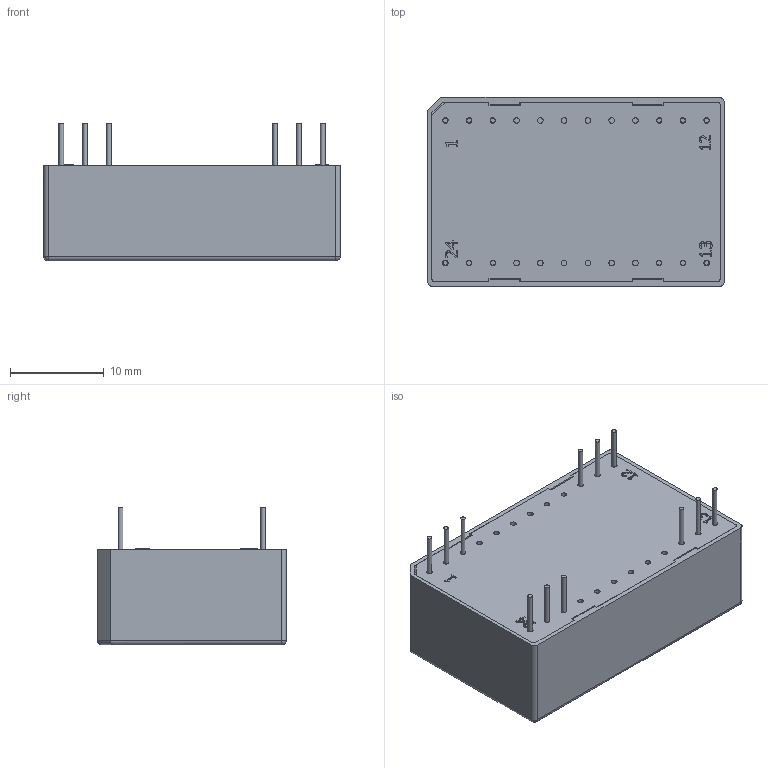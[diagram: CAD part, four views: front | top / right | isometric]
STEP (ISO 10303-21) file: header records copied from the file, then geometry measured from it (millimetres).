
FILE_DESCRIPTION(/* description */ (''),/* implementation_level */ '2;1');
FILE_NAME(/* name */ 'C:\Users\CALLIOPE\Documents\Inventor\MIW06_MIWI06\3D\X2\5C3A5BF8591689C0\X0\\型錄用-STEP檔\MIAR03.stp',/* time_stamp */ '2015-03-13T08:39:07+08:00',/* author */ ('CALLIOPE'),/* organization */ (''),/* preprocessor_version */ 'ST-DEVELOPER v15.6',/* originating_system */ 'Autodesk Inventor 2015',/* authorisation */ '');
FILE_SCHEMA (('AUTOMOTIVE_DESIGN { 1 0 10303 214 3 1 1 }'));
Length unit declared in the file: millimetre
Products named in the file (3): MIAR03 CASE; BASE; MIAR03
Assembly tree (2 placements, depth 2):
  MIAR03
    MIAR03 CASE
    BASE
Bounding box: 31.68 x 20.2 x 14.75 mm (x, y, z)
Volume: 6481.6 mm3; surface area: 3794 mm2
Topology: 2 solids, 2 shells, 257 faces, 688 edges, 453 vertices
Faces by surface type: plane 136, cylinder 50, bspline 44, cone 24, sphere 3
Full cylindrical faces by diameter (mm): 0.5 x12, 0.6 x24
Entity records: 7866 total; most frequent: CARTESIAN_POINT 1888, ORIENTED_EDGE 1202, DIRECTION 1071, EDGE_CURVE 601, VERTEX_POINT 429, LINE 391, VECTOR 391, EDGE_LOOP 386
